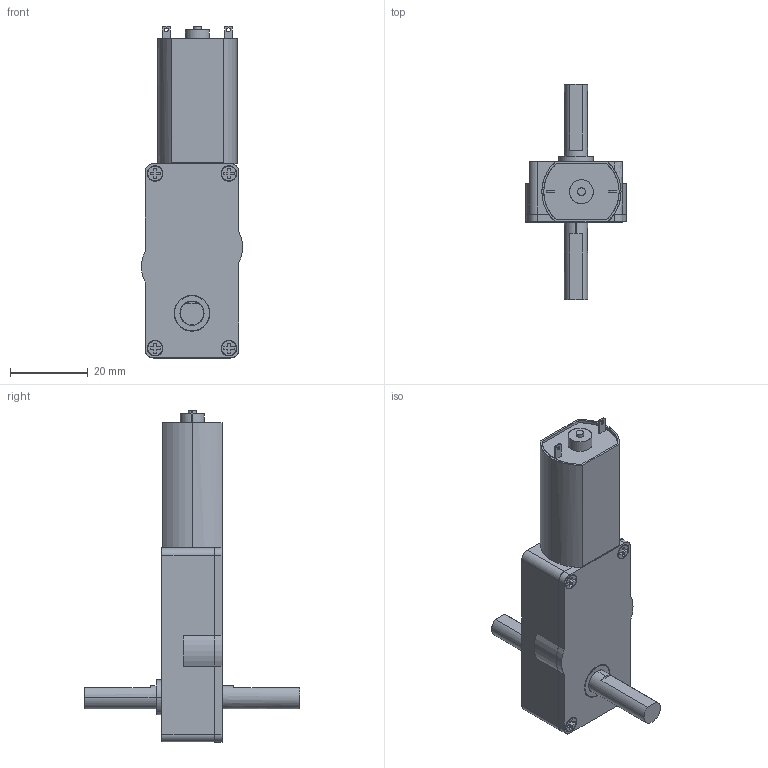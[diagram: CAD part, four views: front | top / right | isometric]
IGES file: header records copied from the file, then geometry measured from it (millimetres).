
Start section: SolidWorks IGES file using analytic representation for surfaces
Bounding box: 26.04 x 55.5 x 85.52 mm (x, y, z)
Surface area: 7958 mm2 (no closed solid volume)
Topology: 0 solids, 0 shells, 197 faces, 2529 edges, 2529 vertices
Faces by surface type: bspline 127, revolution 70
